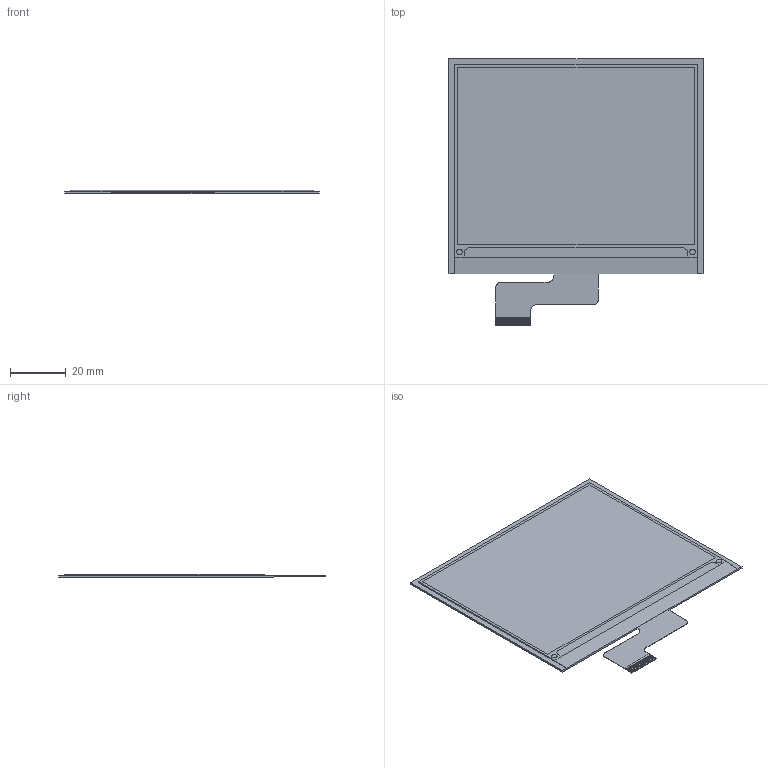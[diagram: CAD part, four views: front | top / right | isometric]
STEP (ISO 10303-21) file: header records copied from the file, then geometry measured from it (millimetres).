
FILE_DESCRIPTION (( 'STEP AP214' ), '1' );
FILE_NAME ('CFAP400300B1-0420.STEP', '2021-04-19T21:08:58', ( '' ), ( '' ), 'SwSTEP 2.0', 'SolidWorks 2020', '' );
FILE_SCHEMA (( 'AUTOMOTIVE_DESIGN' ));
Length unit declared in the file: millimetre
Products named in the file (1): CFAP400300B1-0420
Bounding box: 91 x 95.5 x 1.18 mm (x, y, z)
Volume: 7974.6 mm3; surface area: 16138.9 mm2
Topology: 29 solids, 29 shells, 202 faces, 427 edges, 284 vertices
Faces by surface type: plane 186, cylinder 16
Entity records: 7546 total; most frequent: CARTESIAN_POINT 914, DIRECTION 865, ORIENTED_EDGE 854, EDGE_CURVE 427, VECTOR 395, LINE 395, VERTEX_POINT 284, AXIS2_PLACEMENT_3D 235
